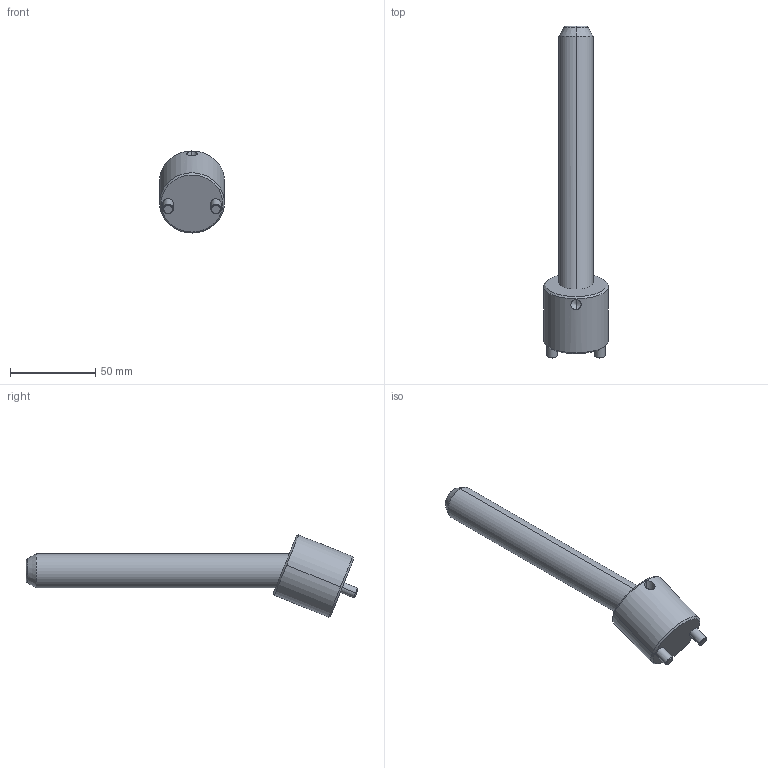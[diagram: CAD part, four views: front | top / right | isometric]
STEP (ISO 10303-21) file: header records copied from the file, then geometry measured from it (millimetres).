
FILE_DESCRIPTION(('CATIA V5 STEP Exchange'),'2;1');
FILE_NAME('C:\Users\Raffaele\Desktop\3D BOLEX\3D FILES CF BOLEX\19-INCLINED ASSEMBLY REF_CI\CI2220150.stp','2019-06-24T06:50:34+00:00',('none'),('none'),'CATIA Version 5 Release 20 GA (IN-10)','CATIA V5 STEP AP203','none');
FILE_SCHEMA(('CONFIG_CONTROL_DESIGN'));
Length unit declared in the file: millimetre
Products named in the file (1): CI2220150
Assembly tree (2 placements, depth 2):
  CI2220150
    #58
    #572
Bounding box: 38 x 194.16 x 47.97 mm (x, y, z)
Volume: 87260.9 mm3; surface area: 20545.6 mm2
Topology: 2 solids, 2 shells, 39 faces, 82 edges, 47 vertices
Faces by surface type: cone 14, cylinder 14, plane 7, torus 4
Entity records: 1512 total; most frequent: CARTESIAN_POINT 655, ORIENTED_EDGE 160, DIRECTION 144, EDGE_CURVE 80, AXIS2_PLACEMENT_3D 71, VERTEX_POINT 47, EDGE_LOOP 43, ADVANCED_FACE 39
